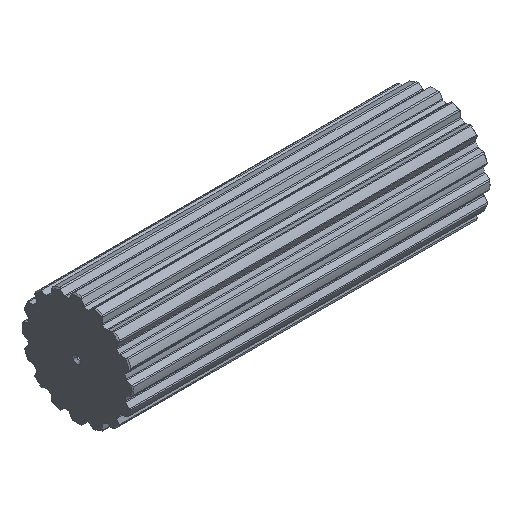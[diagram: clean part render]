
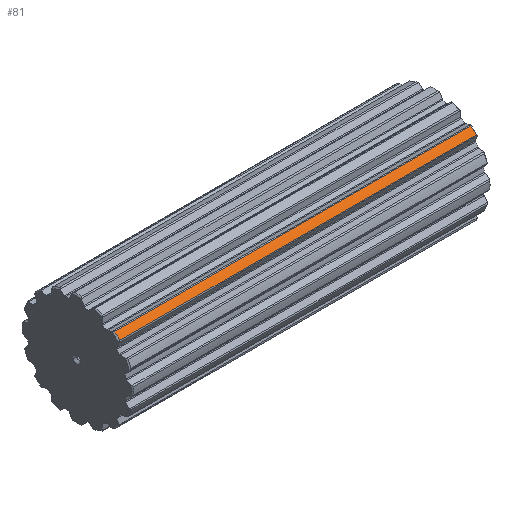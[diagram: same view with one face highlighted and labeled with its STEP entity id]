
A CAD part, isometric view. The second image highlights one B-rep face of the part: STEP entity #81.
In plain terms, the highlighted cylindrical face has radius 24.965 mm (diameter 49.93 mm), a partial arc.
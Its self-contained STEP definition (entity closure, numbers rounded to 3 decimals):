
#81=ADVANCED_FACE('',(#295),#296,.T.);
#295=FACE_OUTER_BOUND('',#653,.T.);
#296=CYLINDRICAL_SURFACE('',#654,24.965);
#653=EDGE_LOOP('',(#1218,#1219,#1220,#1221));
#654=AXIS2_PLACEMENT_3D('',#1222,#1223,#1224);
#1218=ORIENTED_EDGE('',*,*,#2636,.T.);
#1219=ORIENTED_EDGE('',*,*,#2652,.T.);
#1220=ORIENTED_EDGE('',*,*,#2653,.T.);
#1221=ORIENTED_EDGE('',*,*,#2654,.T.);
#1222=CARTESIAN_POINT('',(80.0,0.0,0.0));
#1223=DIRECTION('',(1.0,0.0,-0.0));
#1224=DIRECTION('',(0.0,0.707,0.707));
#2636=EDGE_CURVE('',#3259,#3268,#3270,.T.);
#2652=EDGE_CURVE('',#3268,#3298,#3299,.T.);
#2653=EDGE_CURVE('',#3298,#3300,#3301,.T.);
#2654=EDGE_CURVE('',#3300,#3259,#3302,.T.);
#3259=VERTEX_POINT('',#4613);
#3268=VERTEX_POINT('',#4647);
#3270=CIRCLE('',#4656,24.965);
#3298=VERTEX_POINT('',#4738);
#3299=LINE('',#4739,#4740);
#3300=VERTEX_POINT('',#4741);
#3301=CIRCLE('',#4742,24.965);
#3302=LINE('',#4743,#4744);
#4613=CARTESIAN_POINT('',(0.5,-16.464,18.767));
#4647=CARTESIAN_POINT('',(0.5,-18.767,16.464));
#4656=AXIS2_PLACEMENT_3D('',#6134,#6135,#6136);
#4738=CARTESIAN_POINT('',(159.5,-18.767,16.464));
#4739=CARTESIAN_POINT('',(80.0,-18.767,16.464));
#4740=VECTOR('',#6152,1.0);
#4741=CARTESIAN_POINT('',(159.5,-16.464,18.767));
#4742=AXIS2_PLACEMENT_3D('',#6153,#6154,#6155);
#4743=CARTESIAN_POINT('',(80.0,-16.464,18.767));
#4744=VECTOR('',#6156,1.0);
#6134=CARTESIAN_POINT('',(0.5,0.0,0.0));
#6135=DIRECTION('',(1.0,0.0,0.));
#6136=DIRECTION('',(0.,0.707,0.707));
#6152=DIRECTION('',(1.0,0.0,0.0));
#6153=CARTESIAN_POINT('',(159.5,0.0,0.0));
#6154=DIRECTION('',(-1.0,0.0,0.0));
#6155=DIRECTION('',(0.0,0.707,0.707));
#6156=DIRECTION('',(-1.0,0.0,0.0));
